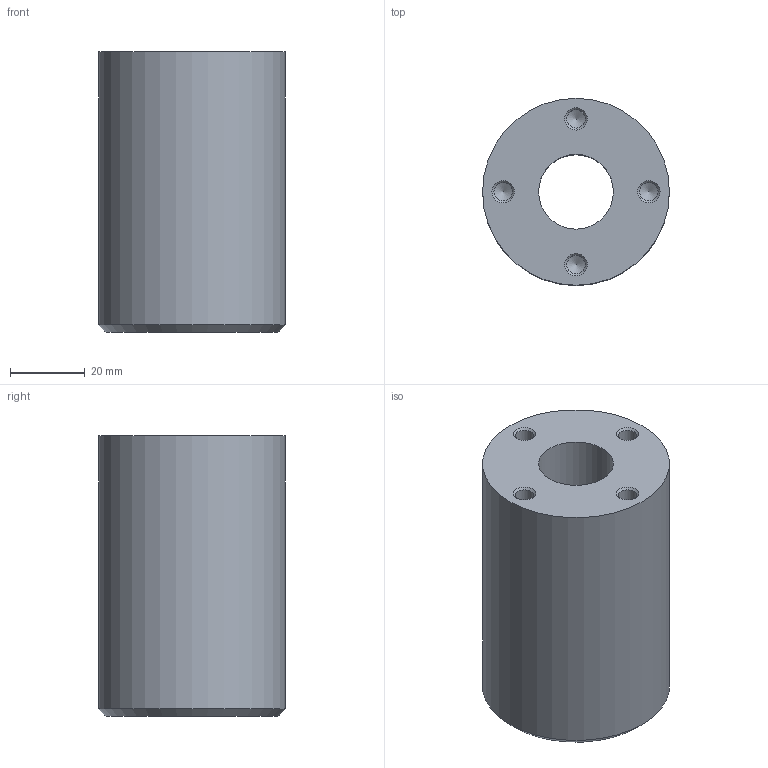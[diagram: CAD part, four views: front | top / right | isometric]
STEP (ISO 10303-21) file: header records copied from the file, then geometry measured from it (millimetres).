
FILE_DESCRIPTION( ( 'STEP AP214' ), '1' );
FILE_NAME( 'U:/Etudes/Top Solid/BIBLIO 3D AVM/STEP/PNEUMATIQUE/GUIDAGES/Accessoires/Paliers/513661_.step', '2005-05-04T12:36:45', ( ' ' ), ( ' ' ), 'XStep 1.0', ' ', ' ' );
FILE_SCHEMA( ( 'automotive_design' ) );
Length unit declared in the file: metre
Products named in the file (1): 1
Bounding box: 50 x 50 x 75 mm (x, y, z)
Volume: 122164.9 mm3; surface area: 20559.4 mm2
Topology: 1 solids, 1 shells, 21 faces, 44 edges, 25 vertices
Faces by surface type: cylinder 10, cone 9, plane 2
Full cylindrical faces by diameter (mm): 4.918 x8, 20 x1, 50 x1
Entity records: 628 total; most frequent: DIRECTION 86, CARTESIAN_POINT 68, AXIS2_PLACEMENT_3D 43, EDGE_LOOP 42, ORIENTED_EDGE 42, FACE_OUTER_BOUND 31, VERTEX_POINT 25, STYLED_ITEM 21
